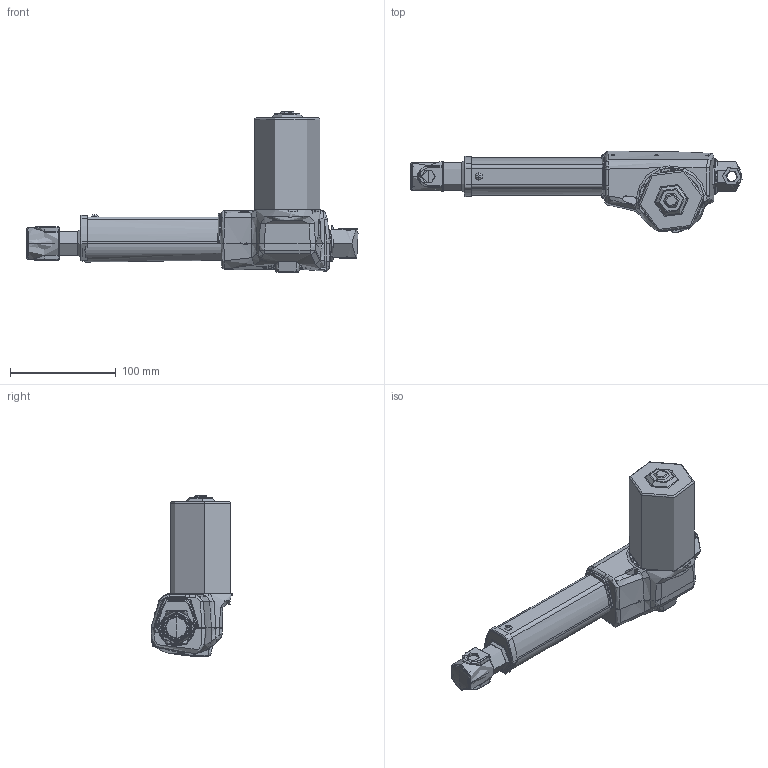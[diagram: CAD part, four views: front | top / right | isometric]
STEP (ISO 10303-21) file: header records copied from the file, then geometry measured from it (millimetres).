
FILE_DESCRIPTION (( 'STEP AP203' ), '1' );
FILE_NAME ('3D_TA41.STEP', '2019-04-23T09:05:33', ( '' ), ( '' ), 'SwSTEP 2.0', 'SolidWorks 2015', '' );
FILE_SCHEMA (( 'CONFIG_CONTROL_DESIGN' ));
Length unit declared in the file: millimetre
Products named in the file (32): 3D_TA41; 33005-002管帽-1; 三維零件圖-32209-4501-外管-230; 三維零件圖-自攻螺絲-0; 三維零件圖-31605-947-外殼下蓋-A1; TA41-內管組; 三維零件圖-33112-011-防擺環-C; TA41-外管組; 三維零件圖-33903-222-公制螺絲-0; 32109-0102-內管-0; 三維零件圖-32910-005-馬達套-B; 三維零件圖-T1-180062-下端接頭-0_180731; 三維零件圖-33005-014-套管-C; 三維零件圖-31605-946-外殼上蓋-A
Assembly tree (26 placements, depth 3):
  3D_TA41
    三維零件圖-自攻螺絲-0
    三維零件圖-自攻螺絲-0
    三維零件圖-自攻螺絲-0
    三維零件圖-自攻螺絲-0
    三維零件圖-33903-222-公制螺絲-0
    三維零件圖-自攻螺絲-0
    三維零件圖-自攻螺絲-0
  三維零件圖-31605-947-外殼下蓋-A1
  三維零件圖-32209-4501-外管-230
  三維零件圖-33112-011-防擺環-C
  32109-0102-內管-0
Bounding box: 313.38 x 77.39 x 151.7 mm (x, y, z)
Volume: 243696.3 mm3; surface area: 224622.1 mm2
Topology: 20 solids, 23 shells, 3175 faces, 8223 edges, 5200 vertices
Faces by surface type: cylinder 1338, plane 1087, bspline 328, cone 250, torus 160, sphere 12
Entity records: 112638 total; most frequent: CARTESIAN_POINT 50526, ORIENTED_EDGE 13162, DIRECTION 11350, EDGE_CURVE 6581, AXIS2_PLACEMENT_3D 4245, VERTEX_POINT 4187, VECTOR 2860, LINE 2860
